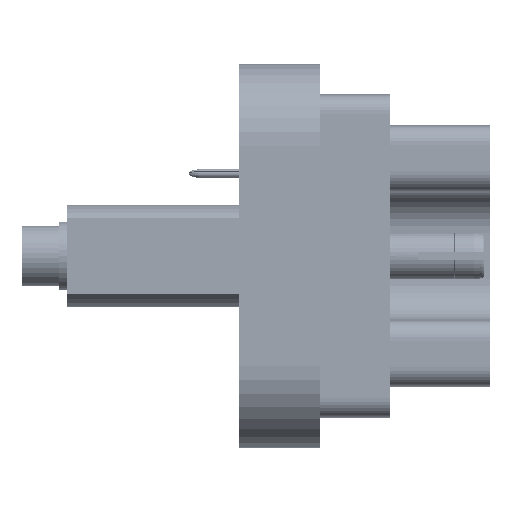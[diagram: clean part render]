
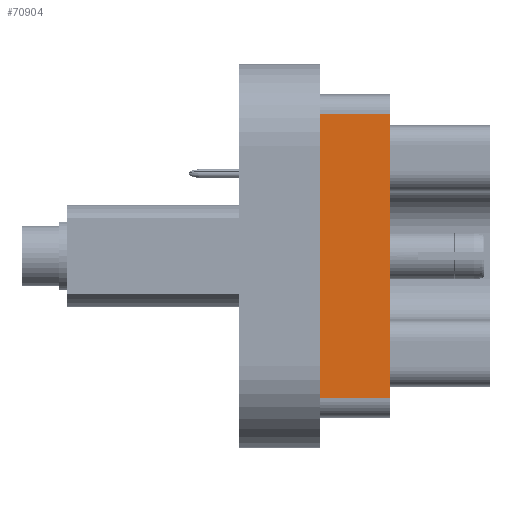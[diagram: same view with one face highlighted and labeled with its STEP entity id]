
A CAD part, front view. The second image highlights one B-rep face of the part: STEP entity #70904.
In plain terms, the highlighted planar face has unit normal (0, -1, 0).
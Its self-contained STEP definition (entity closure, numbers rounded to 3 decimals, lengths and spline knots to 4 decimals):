
#9880=FACE_OUTER_BOUND($,#14121,.T.);
#14121=EDGE_LOOP($,(#55797,#55798,#55799,#55800));
#21144=LINE($,#114843,#26469);
#21150=LINE($,#114861,#26475);
#21151=LINE($,#114863,#26476);
#21152=LINE($,#114864,#26477);
#26469=VECTOR($,#85032,0.213);
#26475=VECTOR($,#85048,0.213);
#26476=VECTOR($,#85051,0.862);
#26477=VECTOR($,#85052,0.862);
#31771=VERTEX_POINT($,#114840);
#31772=VERTEX_POINT($,#114842);
#31776=VERTEX_POINT($,#114854);
#31779=VERTEX_POINT($,#114859);
#40405=EDGE_CURVE($,#31771,#31772,#21144,.T.);
#40414=EDGE_CURVE($,#31779,#31776,#21150,.T.);
#40415=EDGE_CURVE($,#31776,#31771,#21151,.T.);
#40416=EDGE_CURVE($,#31779,#31772,#21152,.T.);
#55797=ORIENTED_EDGE($,*,*,#40405,.F.);
#55798=ORIENTED_EDGE($,*,*,#40415,.F.);
#55799=ORIENTED_EDGE($,*,*,#40414,.F.);
#55800=ORIENTED_EDGE($,*,*,#40416,.T.);
#64186=PLANE($,#74422);
#70904=ADVANCED_FACE($,(#9880),#64186,.T.);
#74422=AXIS2_PLACEMENT_3D($,#114862,#85049,#85050);
#85032=DIRECTION($,(-1.,0.,0.));
#85048=DIRECTION($,(1.,0.,0.));
#85049=DIRECTION('center_axis',(0.,-1.,0.));
#85050=DIRECTION('ref_axis',(0.,0.,-1.));
#85051=DIRECTION($,(0.,0.,-1.));
#85052=DIRECTION($,(0.,0.,-1.));
#114840=CARTESIAN_POINT('',(0.2888,-1.8354,-0.431));
#114842=CARTESIAN_POINT('',(0.0758,-1.8354,-0.431));
#114843=CARTESIAN_POINT($,(0.1823,-1.8354,-0.431));
#114854=CARTESIAN_POINT('',(0.2888,-1.8354,0.431));
#114859=CARTESIAN_POINT('',(0.0758,-1.8354,0.431));
#114861=CARTESIAN_POINT($,(0.1823,-1.8354,0.431));
#114862=CARTESIAN_POINT('Origin',(0.0758,-1.8354,
0.583));
#114863=CARTESIAN_POINT($,(0.2888,-1.8354,0.524));
#114864=CARTESIAN_POINT($,(0.0758,-1.8354,0.583));
